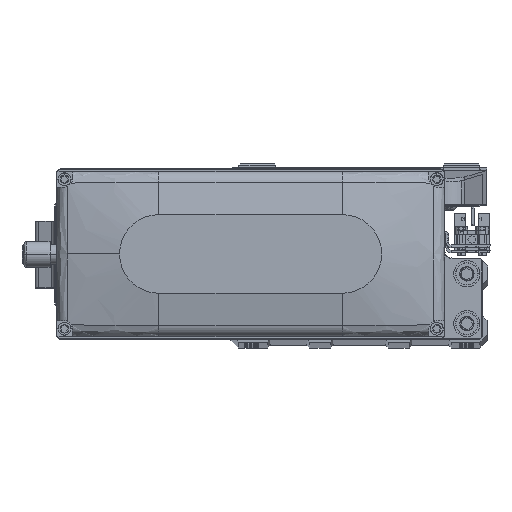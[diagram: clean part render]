
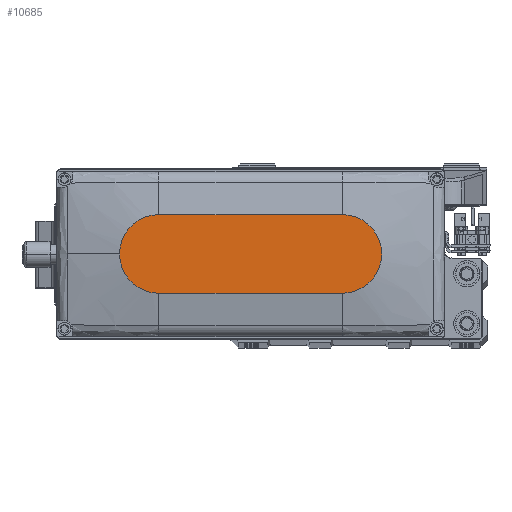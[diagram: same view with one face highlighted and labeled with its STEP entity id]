
A CAD part, top view. The second image highlights one B-rep face of the part: STEP entity #10685.
In plain terms, the highlighted planar face has unit normal (0, 0, 1).
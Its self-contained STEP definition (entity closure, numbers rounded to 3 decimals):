
#688 = ORIENTED_EDGE ( 'NONE', *, *, #21489, .T. ) ;
#5190 = CIRCLE ( 'NONE', #33498, 15. ) ;
#6652 = CARTESIAN_POINT ( 'NONE',  ( -35., 15., 35. ) ) ;
#7365 = ORIENTED_EDGE ( 'NONE', *, *, #40891, .T. ) ;
#8995 = VERTEX_POINT ( 'NONE', #14935 ) ;
#9375 = DIRECTION ( 'NONE',  ( 0., 0., 1. ) ) ;
#10401 = AXIS2_PLACEMENT_3D ( 'NONE', #30731, #46185, #11495 ) ;
#10685 = ADVANCED_FACE ( 'NONE', ( #33632 ), #49072, .T. ) ;
#11143 = CARTESIAN_POINT ( 'NONE',  ( -35., -15., 35. ) ) ;
#11495 = DIRECTION ( 'NONE',  ( 1., 0., 0. ) ) ;
#14379 = CARTESIAN_POINT ( 'NONE',  ( 0., 0., 35. ) ) ;
#14935 = CARTESIAN_POINT ( 'NONE',  ( 35., -15., 35. ) ) ;
#17132 = AXIS2_PLACEMENT_3D ( 'NONE', #17674, #33152, #48600 ) ;
#17674 = CARTESIAN_POINT ( 'NONE',  ( 35., 0., 35. ) ) ;
#18553 = ORIENTED_EDGE ( 'NONE', *, *, #38087, .T. ) ;
#18644 = VERTEX_POINT ( 'NONE', #44081 ) ;
#19382 = VERTEX_POINT ( 'NONE', #19408 ) ;
#19408 = CARTESIAN_POINT ( 'NONE',  ( 35., 15., 35. ) ) ;
#20687 = VECTOR ( 'NONE', #22084, 1000. ) ;
#21489 = EDGE_CURVE ( 'NONE', #8995, #22029, #25768, .T. ) ;
#22029 = VERTEX_POINT ( 'NONE', #27378 ) ;
#22084 = DIRECTION ( 'NONE',  ( -1., 0., 0. ) ) ;
#23376 = CARTESIAN_POINT ( 'NONE',  ( -35., -15., 35. ) ) ;
#24815 = DIRECTION ( 'NONE',  ( 1., 0., 0. ) ) ;
#25768 = CIRCLE ( 'NONE', #10401, 15. ) ;
#25955 = EDGE_CURVE ( 'NONE', #22029, #19382, #38991, .T. ) ;
#26584 = DIRECTION ( 'NONE',  ( 1., 0., 0. ) ) ;
#27378 = CARTESIAN_POINT ( 'NONE',  ( 50., 0., 35. ) ) ;
#27451 = EDGE_CURVE ( 'NONE', #46440, #8995, #45831, .T. ) ;
#29696 = VECTOR ( 'NONE', #26584, 1000. ) ;
#29818 = DIRECTION ( 'NONE',  ( 0., 0., 1. ) ) ;
#30731 = CARTESIAN_POINT ( 'NONE',  ( 35., 0., 35. ) ) ;
#33152 = DIRECTION ( 'NONE',  ( 0., 0., 1. ) ) ;
#33498 = AXIS2_PLACEMENT_3D ( 'NONE', #44075, #9375, #24815 ) ;
#33632 = FACE_OUTER_BOUND ( 'NONE', #47050, .T. ) ;
#34883 = ORIENTED_EDGE ( 'NONE', *, *, #27451, .T. ) ;
#38087 = EDGE_CURVE ( 'NONE', #18644, #46440, #5190, .T. ) ;
#38991 = CIRCLE ( 'NONE', #17132, 15. ) ;
#40891 = EDGE_CURVE ( 'NONE', #19382, #18644, #41352, .T. ) ;
#41352 = LINE ( 'NONE', #6652, #20687 ) ;
#41921 = ORIENTED_EDGE ( 'NONE', *, *, #25955, .T. ) ;
#44075 = CARTESIAN_POINT ( 'NONE',  ( -35., 0., 35. ) ) ;
#44081 = CARTESIAN_POINT ( 'NONE',  ( -35., 15., 35. ) ) ;
#45275 = DIRECTION ( 'NONE',  ( 1., 0., 0. ) ) ;
#45831 = LINE ( 'NONE', #11143, #29696 ) ;
#46185 = DIRECTION ( 'NONE',  ( 0., 0., 1. ) ) ;
#46440 = VERTEX_POINT ( 'NONE', #23376 ) ;
#46687 = AXIS2_PLACEMENT_3D ( 'NONE', #14379, #29818, #45275 ) ;
#47050 = EDGE_LOOP ( 'NONE', ( #7365, #18553, #34883, #688, #41921 ) ) ;
#48600 = DIRECTION ( 'NONE',  ( 1., 0., 0. ) ) ;
#49072 = PLANE ( 'NONE',  #46687 ) ;
